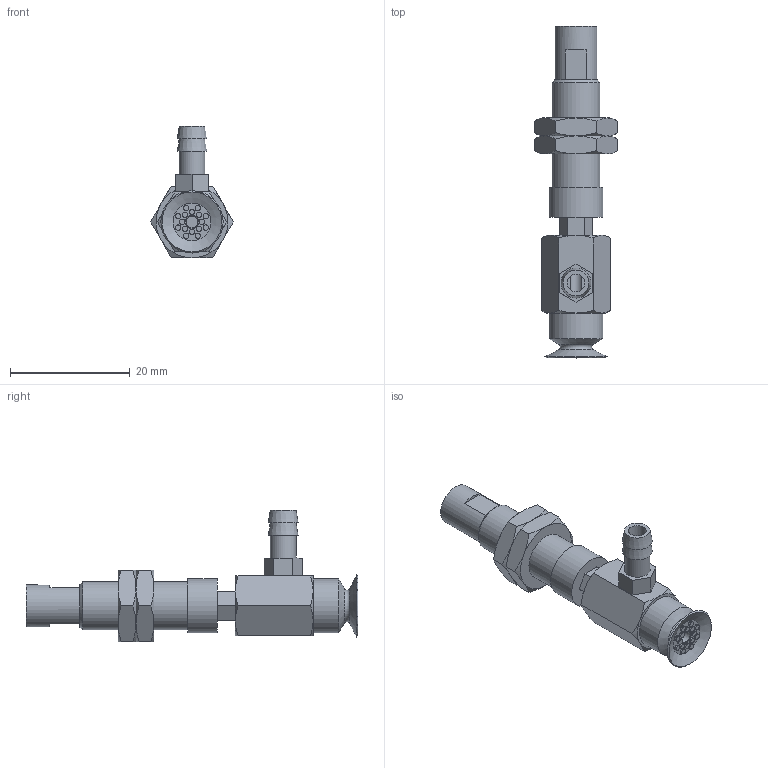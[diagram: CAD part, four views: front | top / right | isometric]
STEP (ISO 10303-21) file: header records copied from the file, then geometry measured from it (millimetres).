
FILE_DESCRIPTION(('STEP AP203'),'1');
FILE_NAME('-T.stp','2025-03-13T02:48:03',(' '),(' '),'Spatial InterOp 3D',' ',' ');
FILE_SCHEMA(('CONFIG_CONTROL_DESIGN'));
Length unit declared in the file: millimetre
Products named in the file (7): BNABPAYH-10A-3-※-T; NAPATH-10A-3--M; NAPATH-10A-3--F; Nut-10A-S; CONNECTOR-10A-3-PA; CONNECTOR-10A-3-T-PA; BPAG-10A-※
Assembly tree (7 placements, depth 2):
  BNABPAYH-10A-3-※-T
    NAPATH-10A-3--M
    NAPATH-10A-3--F
    Nut-10A-S  x2
    CONNECTOR-10A-3-PA
    CONNECTOR-10A-3-T-PA
    BPAG-10A-※
Bounding box: 13.86 x 55.5 x 22 mm (x, y, z)
Volume: 3556.3 mm3; surface area: 4527.4 mm2
Topology: 7 solids, 7 shells, 189 faces, 384 edges, 238 vertices
Faces by surface type: plane 91, cone 54, cylinder 34, torus 10
Full cylindrical faces by diameter (mm): 0.9 x16, 2 x2, 3 x1, 4 x2, 4.134 x2, 4.3 x1, 5 x2, 6 x2, 7 x1, 7.188 x2, 8 x1, 9 x2
Entity records: 4566 total; most frequent: CARTESIAN_POINT 994, DIRECTION 686, ORIENTED_EDGE 540, AXIS2_PLACEMENT_3D 296, EDGE_CURVE 270, EDGE_LOOP 264, FACE_OUTER_BOUND 209, VERTEX_POINT 202
